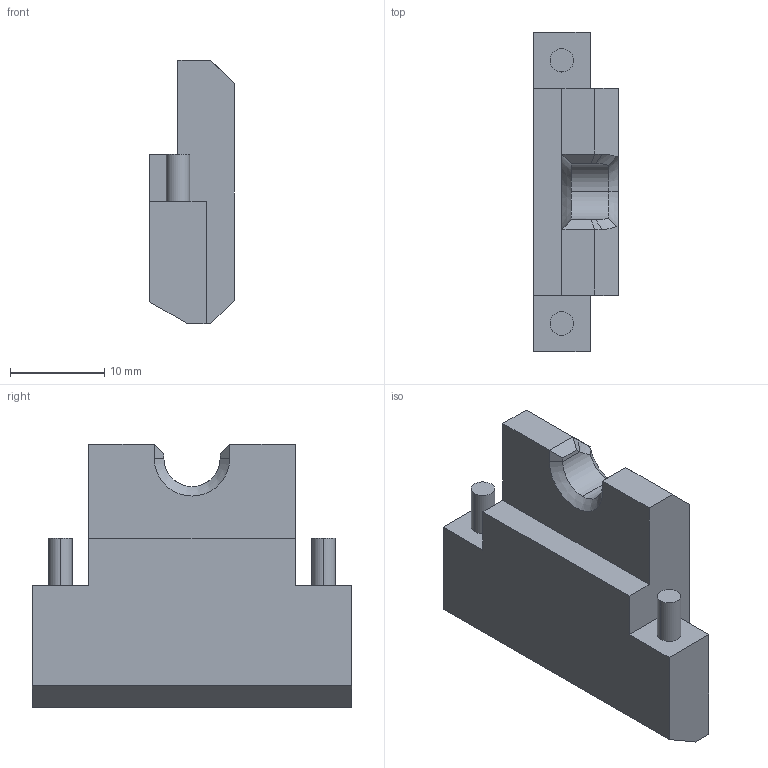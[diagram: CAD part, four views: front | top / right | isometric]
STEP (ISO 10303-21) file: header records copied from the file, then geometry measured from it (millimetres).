
FILE_DESCRIPTION (( 'STEP AP214' ), '1' );
FILE_NAME ('GZ27.08_V1盓傅啣.STEP', '2021-04-11T10:11:53', ( 'hp' ), ( '' ), 'SwSTEP 2.0', 'SolidWorks 2017', '' );
FILE_SCHEMA (( 'AUTOMOTIVE_DESIGN' ));
Length unit declared in the file: millimetre
Products named in the file (1): GZ27.08_V1盓傅啣
Bounding box: 9 x 34 x 28 mm (x, y, z)
Volume: 5438.1 mm3; surface area: 2438.2 mm2
Topology: 1 solids, 1 shells, 40 faces, 99 edges, 63 vertices
Faces by surface type: plane 29, cylinder 6, cone 3, bspline 2
Entity records: 1291 total; most frequent: CARTESIAN_POINT 320, ORIENTED_EDGE 198, DIRECTION 182, EDGE_CURVE 99, VECTOR 74, LINE 74, VERTEX_POINT 63, AXIS2_PLACEMENT_3D 54
